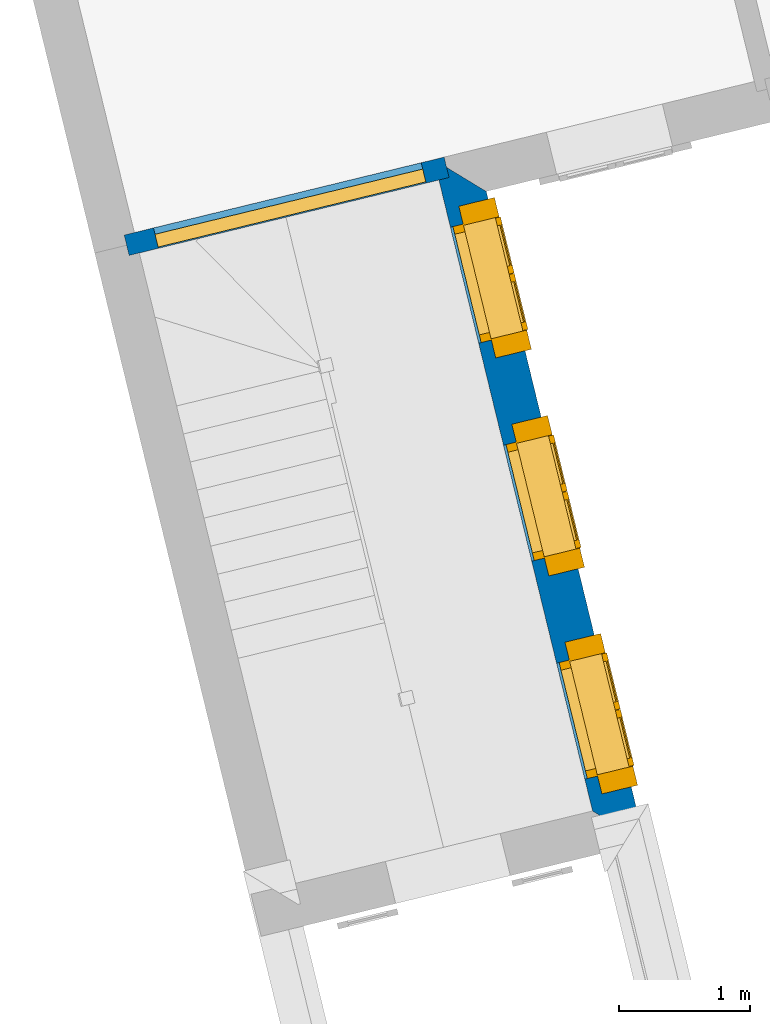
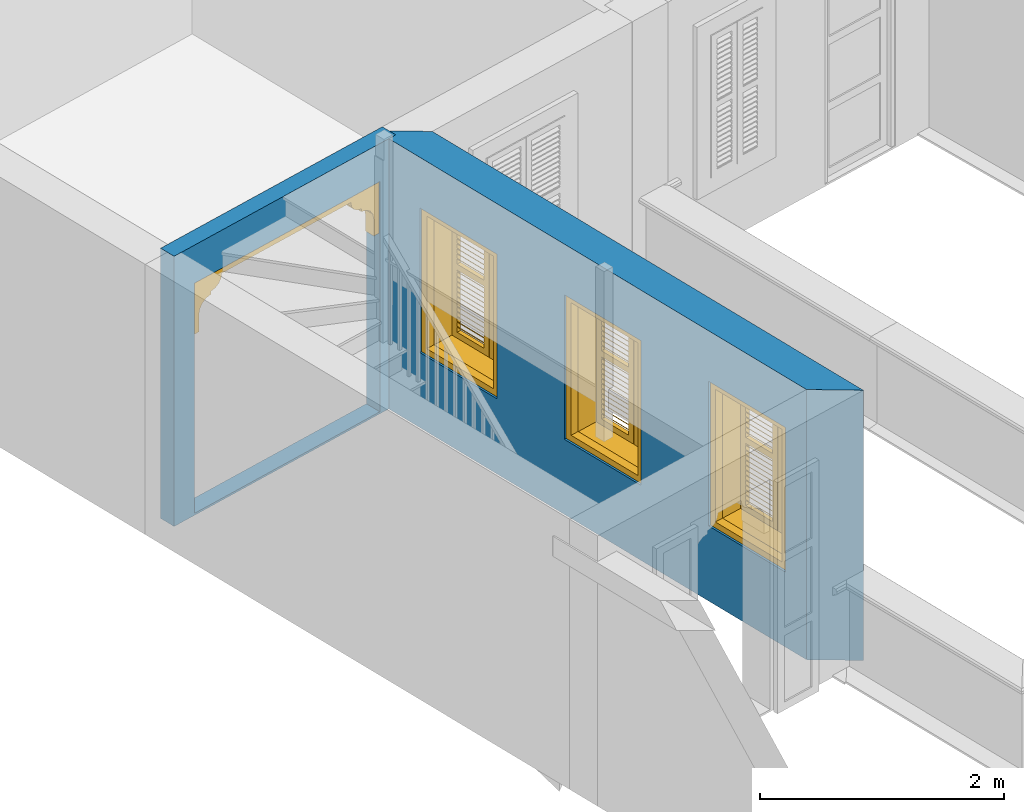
# One storey, part 3 of 9: 3 windows, 2 walls, 1 door, 4 openings.
"""IFC4 building model written with IfcOpenShell, lengths in metres."""

import ifcopenshell
import ifcopenshell.guid

model = None  # the IFC model being written
_history = None  # IfcOwnerHistory: only IFC2X3 demands one
_inside = {}  # id of a spatial element -> (the spatial element, [elements in it])
_under = {}  # id of a project, library or spatial element -> (it, [spatial elements below it])
_declared = {}  # id of a project -> (the project, [libraries it declares])
_typed = {}  # id of a type object -> (the type object, [elements of that type])
_made_of = {}  # id of a material, layer set ... -> (it, [elements and type objects made of it])


def new_model(schema):
    """Start an empty IFC model of exactly this schema.

    Asked for "IFC4X3", IfcOpenShell would pick the latest addendum, in which some entities
    have other attributes; the version numbers below select the first issue.
    IFC2X3 requires an IfcOwnerHistory on every rooted entity: one is made here for all.
    """
    global model, _history
    if schema == "IFC4X3":
        model = ifcopenshell.file(schema_version=(4, 3, 0, 0))
    else:
        model = ifcopenshell.file(schema=schema)
    _inside.clear()
    _under.clear()
    _declared.clear()
    _typed.clear()
    _made_of.clear()
    _history = None
    if model.schema == "IFC2X3":
        org = make("IfcOrganization", Name="unknown")
        user = make(
            "IfcPersonAndOrganization",
            ThePerson=make("IfcPerson", FamilyName="unknown"),
            TheOrganization=org,
        )
        app = make(
            "IfcApplication",
            ApplicationDeveloper=org,
            Version="unknown",
            ApplicationFullName="unknown",
            ApplicationIdentifier="unknown",
        )
        _history = make(
            "IfcOwnerHistory",
            OwningUser=user,
            OwningApplication=app,
            ChangeAction="ADDED",
            CreationDate=0,
        )
    return model


def make(cls, **values):
    """One entity of the class cls with the attributes given. An attribute that is None is left unset."""
    return model.create_entity(
        cls, **{name: value for name, value in values.items() if value is not None}
    )


def rooted(cls, **values):
    """An entity with a GlobalId (a new one), such as an element, a storey or a relation."""
    return make(cls, GlobalId=ifcopenshell.guid.new(), OwnerHistory=_history, **values)


def si_unit(unit_type, name, prefix=None):
    """IfcSIUnit, for example si_unit("LENGTHUNIT", "METRE", prefix="MILLI")."""
    return make("IfcSIUnit", UnitType=unit_type, Prefix=prefix, Name=name)


def assignment(units):
    """IfcUnitAssignment: the units of a project."""
    return None if units is None else make("IfcUnitAssignment", Units=units)


def point(xyz):
    """IfcCartesianPoint."""
    return None if xyz is None else make("IfcCartesianPoint", Coordinates=xyz)


def direction(xyz):
    """IfcDirection."""
    return None if xyz is None else make("IfcDirection", DirectionRatios=xyz)


def frame(location, z_axis=None, x_axis=None):
    """IfcAxis2Placement3D, a coordinate frame: its origin and axes. An axis left out is left unset."""
    return make(
        "IfcAxis2Placement3D",
        Location=point(location),
        Axis=direction(z_axis),
        RefDirection=direction(x_axis),
    )


def origin():
    """The frame at (0, 0, 0) with its axes left unset."""
    return frame((0.0, 0.0, 0.0))


def origin_with_axes():
    """The frame at (0, 0, 0) with the z axis (0, 0, 1) and the x axis (1, 0, 0) written out."""
    return frame((0.0, 0.0, 0.0), z_axis=(0.0, 0.0, 1.0), x_axis=(1.0, 0.0, 0.0))


def place(relative_to, where):
    """IfcLocalPlacement: puts the frame where relative to a parent placement (None: the world)."""
    return make(
        "IfcLocalPlacement", PlacementRelTo=relative_to, RelativePlacement=where
    )


def context(
    kind, dimensions, precision=None, world=None, true_north=None, identifier=None
):
    """IfcGeometricRepresentationContext, for example the 3D "Model" context."""
    return make(
        "IfcGeometricRepresentationContext",
        ContextIdentifier=identifier,
        ContextType=kind,
        CoordinateSpaceDimension=dimensions,
        Precision=precision,
        WorldCoordinateSystem=world,
        TrueNorth=true_north,
    )


def subcontext(parent, identifier, kind, view, scale=None):
    """IfcGeometricRepresentationSubContext, for example "Body" below "Model"."""
    return make(
        "IfcGeometricRepresentationSubContext",
        ContextIdentifier=identifier,
        ContextType=kind,
        ParentContext=parent,
        TargetScale=scale,
        TargetView=view,
    )


def project(units=None, contexts=None):
    """IfcProject with its units and contexts."""
    return rooted(
        "IfcProject",
        Name="project",
        RepresentationContexts=contexts,
        UnitsInContext=assignment(units),
    )


def spatial(cls, under=None, at=None, **own):
    """A site, building, storey or space (cls), placed at a placement, below another one or the project."""
    s = rooted(cls, ObjectPlacement=at, **own)
    if under is not None:
        _under.setdefault(under.id(), (under, []))[1].append(s)
    return s


def polyline(points):
    """IfcPolyline through the points."""
    return make("IfcPolyline", Points=[point(p) for p in points])


def outline(outer, holes=None, kind="AREA"):
    """IfcArbitraryClosedProfileDef: a profile drawn as a closed curve; with holes, ...WithVoids."""
    if holes is None:
        return make("IfcArbitraryClosedProfileDef", ProfileType=kind, OuterCurve=outer)
    return make(
        "IfcArbitraryProfileDefWithVoids",
        ProfileType=kind,
        OuterCurve=outer,
        InnerCurves=holes,
    )


def extrude(swept, where, along, depth):
    """IfcExtrudedAreaSolid: the profile swept, set in the frame where, extruded along a direction by depth."""
    return make(
        "IfcExtrudedAreaSolid",
        SweptArea=swept,
        Position=where,
        ExtrudedDirection=direction(along),
        Depth=depth,
    )


def faces_of(points, faces, orient=None, outer=None):
    """IfcFace entities. A face is a list of loops; a loop is a list of indices into points, from 0.

    orient and outer hold one flag for each loop. By default every Orientation is true, the
    first loop of a face is its IfcFaceOuterBound and the others are IfcFaceBound.
    """
    made = []
    for i, loops in enumerate(faces):
        bounds = []
        for j, loop in enumerate(loops):
            is_outer = j == 0 if outer is None else outer[i][j]
            bounds.append(
                make(
                    "IfcFaceOuterBound" if is_outer else "IfcFaceBound",
                    Bound=make("IfcPolyLoop", Polygon=[points[k] for k in loop]),
                    Orientation=True if orient is None else orient[i][j],
                )
            )
        made.append(make("IfcFace", Bounds=bounds))
    return made


def faceted_brep(points, faces, orient=None, outer=None, voids=None):
    """IfcFacetedBrep: a solid bounded by flat faces; with voids (closed shells), ...WithVoids."""
    shared = [point(p) for p in points]
    hull = make("IfcClosedShell", CfsFaces=faces_of(shared, faces, orient, outer))
    if voids is None:
        return make("IfcFacetedBrep", Outer=hull)
    return make(
        "IfcFacetedBrepWithVoids",
        Outer=hull,
        Voids=[
            make(cls, CfsFaces=faces_of(shared, fs, o, b)) for cls, fs, o, b in voids
        ],
    )


def shape(context_of_items, identifier, shape_type, items):
    """IfcShapeRepresentation: the items that make up one representation, for example the "Body"."""
    return make(
        "IfcShapeRepresentation",
        ContextOfItems=context_of_items,
        RepresentationIdentifier=identifier,
        RepresentationType=shape_type,
        Items=items,
    )


def source(mapping_origin, context_of_items, identifier, shape_type, items):
    """IfcRepresentationMap: a shape defined once, which mapped items show again and again."""
    return make(
        "IfcRepresentationMap",
        MappingOrigin=mapping_origin,
        MappedRepresentation=shape(context_of_items, identifier, shape_type, items),
    )


def transform(
    local_origin,
    x_axis=None,
    y_axis=None,
    z_axis=None,
    scale=None,
    scale2=None,
    scale3=None,
    uniform=True,
):
    """IfcCartesianTransformationOperator3D, or its non-uniform kind. x_axis, y_axis, z_axis: its Axis1, 2, 3."""
    if uniform:
        return make(
            "IfcCartesianTransformationOperator3D",
            Axis1=direction(x_axis),
            Axis2=direction(y_axis),
            LocalOrigin=point(local_origin),
            Scale=scale,
            Axis3=direction(z_axis),
        )
    return make(
        "IfcCartesianTransformationOperator3DnonUniform",
        Axis1=direction(x_axis),
        Axis2=direction(y_axis),
        LocalOrigin=point(local_origin),
        Scale=scale,
        Axis3=direction(z_axis),
        Scale2=scale2,
        Scale3=scale3,
    )


def mapped(mapping_source, mapping_target):
    """IfcMappedItem: shows the shape of a source again, moved by a transform."""
    return make(
        "IfcMappedItem", MappingSource=mapping_source, MappingTarget=mapping_target
    )


def material(Name=None, Category=None):
    """IfcMaterial."""
    return make("IfcMaterial", Name=Name, Category=Category)


def layer(
    of_material, thickness, ventilated=None, Name=None, Category=None, Priority=None
):
    """IfcMaterialLayer: one layer of a wall or slab, of a material (None: an air gap)."""
    return make(
        "IfcMaterialLayer",
        Material=of_material,
        LayerThickness=thickness,
        IsVentilated=ventilated,
        Name=Name,
        Category=Category,
        Priority=Priority,
    )


def layer_set(layers, Name=None):
    """IfcMaterialLayerSet."""
    return make("IfcMaterialLayerSet", MaterialLayers=layers, LayerSetName=Name)


def layer_usage(for_layer_set, set_direction, sense, offset, extent=None):
    """IfcMaterialLayerSetUsage: how a layer set lies in its element."""
    return make(
        "IfcMaterialLayerSetUsage",
        ForLayerSet=for_layer_set,
        LayerSetDirection=set_direction,
        DirectionSense=sense,
        OffsetFromReferenceLine=offset,
        ReferenceExtent=extent,
    )


def made_of(thing, what):
    """Note that an element or type object is made of a material, layer set ...; save() writes the relation."""
    if what is not None:
        _made_of.setdefault(what.id(), (what, []))[1].append(thing)
    return thing


def type_object(cls, material=None, **own):
    """A type object (cls), such as IfcWallType, which elements share."""
    return made_of(rooted(cls, **own), material)


def type_shapes(of_type, sources):
    """Give a type object the sources (RepresentationMaps) that its elements show as mapped items."""
    of_type.RepresentationMaps = sources


def element(
    cls,
    number,
    at=None,
    inside=None,
    cuts=None,
    type_object=None,
    material=None,
    context=None,
    identifier="Body",
    shape_type=None,
    held_by="IfcProductDefinitionShape",
    body=None,
    shapes=None,
    **own,
):
    """One element of the class cls, such as IfcWall. Its Tag is "e" and its number.

    at: its placement. inside: the storey or other place that contains it. cuts: it is an
    opening in that element (IfcRelVoidsElement). A single representation is given by context,
    identifier, shape_type and body (its items); several are given by shapes. held_by: the class
    of the entity that holds the representations. save() writes the other relations.
    """
    e = rooted(cls, Tag="e%d" % number, ObjectPlacement=at, **own)
    if body is not None:
        shapes = [shape(context, identifier, shape_type, body)]
    if shapes is not None:
        e.Representation = make(held_by, Representations=shapes)
    if inside is not None:
        _inside.setdefault(inside.id(), (inside, []))[1].append(e)
    if cuts is not None:
        rooted(
            "IfcRelVoidsElement", RelatingBuildingElement=cuts, RelatedOpeningElement=e
        )
    if type_object is not None:
        _typed.setdefault(type_object.id(), (type_object, []))[1].append(e)
    return made_of(e, material)


def fill(opening, filler):
    """IfcRelFillsElement: the door or window that sits in an opening."""
    return rooted(
        "IfcRelFillsElement",
        RelatingOpeningElement=opening,
        RelatedBuildingElement=filler,
    )


def aggregate(whole, parts):
    """IfcRelAggregates: a whole, such as a stair, and the parts it consists of."""
    return rooted("IfcRelAggregates", RelatingObject=whole, RelatedObjects=parts)


def save(model, path):
    """Write the relations noted so far, then the file.

    IfcRelAggregates (storeys below a building ...), IfcRelContainedInSpatialStructure (elements
    in a storey), IfcRelDefinesByType, IfcRelAssociatesMaterial and IfcRelDeclares: one each for
    every whole, place, type object, material and project.
    """
    for whole, parts in _under.values():
        aggregate(whole, parts)
    for where, things in _inside.values():
        rooted(
            "IfcRelContainedInSpatialStructure",
            RelatedElements=things,
            RelatingStructure=where,
        )
    for kind, things in _typed.values():
        rooted("IfcRelDefinesByType", RelatedObjects=things, RelatingType=kind)
    for what, things in _made_of.values():
        rooted("IfcRelAssociatesMaterial", RelatedObjects=things, RelatingMaterial=what)
    for by, libraries in _declared.values():
        rooted("IfcRelDeclares", RelatingContext=by, RelatedDefinitions=libraries)
    model.write(path)


model = new_model("IFC4")

# Units and contexts
model_context = context("Model", 3, world=origin_with_axes())
body_context = subcontext(model_context, "Body", "Model", "MODEL_VIEW")
ifc_project = project(units=[si_unit("PLANEANGLEUNIT", "RADIAN"), si_unit("MASSUNIT", "GRAM", prefix="KILO"), si_unit("FORCEUNIT", "NEWTON", prefix="KILO"), si_unit("LENGTHUNIT", "METRE"), si_unit("AREAUNIT", "SQUARE_METRE"), si_unit("VOLUMEUNIT", "CUBIC_METRE")], contexts=[model_context, model_context])

# Site, building, storey
site_placement = place(None, origin_with_axes())
site = spatial("IfcSite", under=ifc_project, at=site_placement, Name="Site plot-4", CompositionType="ELEMENT")
building_placement = place(None, origin_with_axes())
building = spatial("IfcBuilding", under=site, at=building_placement, Name="Building plot-4", CompositionType="ELEMENT")
storey_placement = place(None, frame((0.0, 0.0, 2.7), z_axis=(0.0, 0.0, 1.0), x_axis=(1.0, 0.0, 0.0)))
storey = spatial("IfcBuildingStorey", under=building, at=storey_placement, Name="plot-4 1", CompositionType="ELEMENT", Elevation=2.7)

# Wall, openings, windows
ifc_material_1 = material(Name="Masonry")
ifc_layer_1 = layer(ifc_material_1, 0.33, ventilated=False)
ifc_layer_set_1 = layer_set([ifc_layer_1], Name="exterior_0.08_0.25")
ifc_layer_usage_1 = layer_usage(ifc_layer_set_1, "AXIS2", "POSITIVE", -0.25)
wall_type_1 = type_object("IfcWallType", Name="exterior_0.08_0.25", PredefinedType="SOLIDWALL", material=ifc_layer_set_1)
wall_1_placement = place(storey_placement, frame((22.1734712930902, 10.0604083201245, 0.0), z_axis=(0.0, 0.0, 1.0), x_axis=(-0.236608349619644, 0.971605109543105, 0.0)))
wall_1 = element("IfcWall", 1, at=wall_1_placement, inside=storey, type_object=wall_type_1, material=ifc_layer_usage_1, Name="exterior", context=body_context, shape_type="SweptSolid", body=[
    extrude(outline(polyline([(0.0800000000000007, 0.0799999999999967), (-0.250000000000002, -0.25), (4.85976284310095, -0.249999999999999), (5.18976284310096, 0.0799999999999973), (0.0800000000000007, 0.0799999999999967)])), origin_with_axes(), (0.0, 0.0, 1.0), 2.7),
])
opening_1_placement = place(wall_1_placement, frame((0.329762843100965, 0.0, 0.75)))
opening_1 = element("IfcOpeningElement", 2, at=opening_1_placement, cuts=wall_1, Name="My Opening", ObjectType="Opening", context=body_context, shape_type="SweptSolid", body=[
    extrude(outline(polyline([(0.0, -0.269999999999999), (0.910000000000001, -0.269999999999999), (0.910000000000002, 1.1), (1.55431223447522e-15, 1.1), (0.0, -0.269999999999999)])), origin_with_axes(), (0.0, 0.0, 1.0), 1.445),
])
opening_2_placement = place(wall_1_placement, frame((2.03976284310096, 0.0, 0.75)))
opening_2 = element("IfcOpeningElement", 3, at=opening_2_placement, cuts=wall_1, Name="My Opening", ObjectType="Opening", context=body_context, shape_type="SweptSolid", body=[
    extrude(outline(polyline([(0.0, -0.270000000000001), (0.910000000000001, -0.270000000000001), (0.910000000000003, 1.1), (1.33226762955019e-15, 1.1), (0.0, -0.270000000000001)])), origin_with_axes(), (0.0, 0.0, 1.0), 1.445),
])
opening_3_placement = place(wall_1_placement, frame((3.74976284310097, 0.0, 0.75)))
opening_3 = element("IfcOpeningElement", 4, at=opening_3_placement, cuts=wall_1, Name="My Opening", ObjectType="Opening", context=body_context, shape_type="SweptSolid", body=[
    extrude(outline(polyline([(0.0, -0.270000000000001), (0.909999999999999, -0.269999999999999), (0.910000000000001, 1.1), (1.77635683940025e-15, 1.1), (0.0, -0.270000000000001)])), origin_with_axes(), (0.0, 0.0, 1.0), 1.445),
])
window_type = type_object("IfcWindowType", Name="shuttered_shorter", PartitioningType="DOUBLE_PANEL_HORIZONTAL", PredefinedType="NOTDEFINED")
shared_shape_1 = source(origin(), body_context, "Body", "Brep", [
    faceted_brep([(0.393, 0.0, 0.622), (0.074, 0.0, 0.622), (0.074, 0.0, 0.632), (0.393, 0.0, 0.632), (0.074, -0.04, 0.592), (0.393, -0.04, 0.592), (0.393, -0.04, 0.582), (0.074, -0.04, 0.582), (0.517, 0.0, 0.682), (0.836, 0.0, 0.682), (0.836, 0.0, 0.672), (0.517, 0.0, 0.672), (0.517, -0.04, 0.642), (0.836, -0.04, 0.642), (0.836, -0.04, 0.632), (0.517, -0.04, 0.632), (0.517, 0.0, 0.632), (0.836, 0.0, 0.632), (0.836, 0.0, 0.622), (0.517, 0.0, 0.622), (0.517, -0.04, 0.592), (0.836, -0.04, 0.592), (0.836, -0.04, 0.582), (0.517, -0.04, 0.582), (0.517, 0.0, 0.232), (0.836, 0.0, 0.232), (0.836, 0.0, 0.222), (0.517, 0.0, 0.222), (0.517, -0.04, 0.192), (0.836, -0.04, 0.192), (0.836, -0.04, 0.182), (0.517, -0.04, 0.182), (0.517, 0.0, 0.532), (0.836, 0.0, 0.532), (0.836, 0.0, 0.522), (0.517, 0.0, 0.522), (0.517, -0.04, 0.492), (0.836, -0.04, 0.492), (0.836, -0.04, 0.482), (0.517, -0.04, 0.482), (0.517, 0.0, 0.482), (0.836, 0.0, 0.482), (0.836, 0.0, 0.472), (0.517, 0.0, 0.472), (0.517, -0.04, 0.442), (0.836, -0.04, 0.442), (0.836, -0.04, 0.432), (0.517, -0.04, 0.432), (0.517, 0.0, 0.582), (0.836, 0.0, 0.582), (0.836, 0.0, 0.572), (0.517, 0.0, 0.572), (0.517, -0.04, 0.542), (0.836, -0.04, 0.542), (0.836, -0.04, 0.532), (0.517, -0.04, 0.532), (0.517, 0.0, 0.182), (0.836, 0.0, 0.182), (0.836, 0.0, 0.172), (0.517, 0.0, 0.172), (0.517, -0.04, 0.142), (0.836, -0.04, 0.142), (0.836, -0.04, 0.132), (0.517, -0.04, 0.132), (0.517, 0.0, 0.382), (0.836, 0.0, 0.382), (0.836, 0.0, 0.372), (0.517, 0.0, 0.372), (0.517, -0.04, 0.342), (0.836, -0.04, 0.342), (0.836, -0.04, 0.332), (0.517, -0.04, 0.332), (0.517, 0.0, 0.432), (0.836, 0.0, 0.432), (0.836, 0.0, 0.422), (0.517, 0.0, 0.422), (0.517, -0.04, 0.392), (0.836, -0.04, 0.392), (0.836, -0.04, 0.382), (0.517, -0.04, 0.382), (0.517, 0.0, 0.132), (0.836, 0.0, 0.132), (0.836, 0.0, 0.122), (0.517, 0.0, 0.122), (0.517, -0.04, 0.092), (0.836, -0.04, 0.092), (0.836, -0.04, 0.082), (0.517, -0.04, 0.082), (0.517, 0.0, 0.282), (0.836, 0.0, 0.282), (0.836, 0.0, 0.272), (0.517, 0.0, 0.272), (0.517, -0.04, 0.242), (0.836, -0.04, 0.242), (0.836, -0.04, 0.232), (0.517, -0.04, 0.232), (0.517, 0.0, 0.332), (0.836, 0.0, 0.332), (0.836, 0.0, 0.322), (0.517, 0.0, 0.322), (0.517, -0.04, 0.292), (0.836, -0.04, 0.292), (0.836, -0.04, 0.282), (0.517, -0.04, 0.282), (0.517, 0.0, 1.362667), (0.836, 0.0, 1.362667), (0.836, 0.0, 1.352667), (0.517, 0.0, 1.352667), (0.517, -0.04, 1.322667), (0.836, -0.04, 1.322667), (0.836, -0.04, 1.312667), (0.517, -0.04, 1.312667), (0.517, 0.0, 1.312667), (0.836, 0.0, 1.312667), (0.836, 0.0, 1.302667), (0.517, 0.0, 1.302667), (0.517, -0.04, 1.272667), (0.836, -0.04, 1.272667), (0.836, -0.04, 1.262667), (0.517, -0.04, 1.262667), (0.517, 0.0, 0.912667), (0.836, 0.0, 0.912667), (0.836, 0.0, 0.902667), (0.517, 0.0, 0.902667), (0.517, -0.04, 0.872667), (0.836, -0.04, 0.872667), (0.836, -0.04, 0.862667), (0.517, -0.04, 0.862667), (0.517, 0.0, 1.212667), (0.836, 0.0, 1.212667), (0.836, 0.0, 1.202667), (0.517, 0.0, 1.202667), (0.517, -0.04, 1.172667), (0.836, -0.04, 1.172667), (0.836, -0.04, 1.162667), (0.517, -0.04, 1.162667), (0.517, 0.0, 1.162667), (0.836, 0.0, 1.162667), (0.836, 0.0, 1.152667), (0.517, 0.0, 1.152667), (0.517, -0.04, 1.122667), (0.836, -0.04, 1.122667), (0.836, -0.04, 1.112667), (0.517, -0.04, 1.112667), (0.517, 0.0, 1.262667), (0.836, 0.0, 1.262667), (0.836, 0.0, 1.252667), (0.517, 0.0, 1.252667), (0.517, -0.04, 1.222667), (0.836, -0.04, 1.222667), (0.836, -0.04, 1.212667), (0.517, -0.04, 1.212667), (0.517, 0.0, 0.862667), (0.836, 0.0, 0.862667), (0.836, 0.0, 0.852667), (0.517, 0.0, 0.852667), (0.517, -0.04, 0.822667), (0.836, -0.04, 0.822667), (0.836, -0.04, 0.812667), (0.517, -0.04, 0.812667), (0.517, 0.0, 1.062667), (0.836, 0.0, 1.062667), (0.836, 0.0, 1.052667), (0.517, 0.0, 1.052667), (0.517, -0.04, 1.022667), (0.836, -0.04, 1.022667), (0.836, -0.04, 1.012667), (0.517, -0.04, 1.012667), (0.517, 0.0, 1.112667), (0.836, 0.0, 1.112667), (0.836, 0.0, 1.102667), (0.517, 0.0, 1.102667), (0.517, -0.04, 1.072667), (0.836, -0.04, 1.072667), (0.836, -0.04, 1.062667), (0.517, -0.04, 1.062667), (0.517, 0.0, 0.812667), (0.836, 0.0, 0.812667), (0.836, 0.0, 0.802667), (0.517, 0.0, 0.802667), (0.517, -0.04, 0.772667), (0.836, -0.04, 0.772667), (0.836, -0.04, 0.762667), (0.517, -0.04, 0.762667), (0.517, 0.0, 0.962667), (0.836, 0.0, 0.962667), (0.836, 0.0, 0.952667), (0.517, 0.0, 0.952667), (0.517, -0.04, 0.922667), (0.836, -0.04, 0.922667), (0.836, -0.04, 0.912667), (0.517, -0.04, 0.912667), (0.517, 0.0, 1.012667), (0.836, 0.0, 1.012667), (0.836, 0.0, 1.002667), (0.517, 0.0, 1.002667), (0.517, -0.04, 0.972667), (0.836, -0.04, 0.972667), (0.836, -0.04, 0.962667), (0.517, -0.04, 0.962667), (0.074, 0.0, 0.682), (0.393, 0.0, 0.682), (0.393, 0.0, 0.672), (0.074, 0.0, 0.672), (0.074, -0.04, 0.642), (0.393, -0.04, 0.642), (0.393, -0.04, 0.632), (0.074, -0.04, 0.632), (0.074, 0.0, 0.232), (0.393, 0.0, 0.232), (0.393, 0.0, 0.222), (0.074, 0.0, 0.222), (0.074, -0.04, 0.192), (0.393, -0.04, 0.192), (0.393, -0.04, 0.182), (0.074, -0.04, 0.182), (0.074, 0.0, 0.532), (0.393, 0.0, 0.532), (0.393, 0.0, 0.522), (0.074, 0.0, 0.522), (0.074, -0.04, 0.492), (0.393, -0.04, 0.492), (0.393, -0.04, 0.482), (0.074, -0.04, 0.482), (0.074, 0.0, 0.482), (0.393, 0.0, 0.482), (0.393, 0.0, 0.472), (0.074, 0.0, 0.472), (0.074, -0.04, 0.442), (0.393, -0.04, 0.442), (0.393, -0.04, 0.432), (0.074, -0.04, 0.432), (0.074, 0.0, 0.582), (0.393, 0.0, 0.582), (0.393, 0.0, 0.572), (0.074, 0.0, 0.572), (0.074, -0.04, 0.542), (0.393, -0.04, 0.542), (0.393, -0.04, 0.532), (0.074, -0.04, 0.532), (0.074, 0.0, 0.182), (0.393, 0.0, 0.182), (0.393, 0.0, 0.172), (0.074, 0.0, 0.172), (0.074, -0.04, 0.142), (0.393, -0.04, 0.142), (0.393, -0.04, 0.132), (0.074, -0.04, 0.132), (0.074, 0.0, 0.382), (0.393, 0.0, 0.382), (0.393, 0.0, 0.372), (0.074, 0.0, 0.372), (0.074, -0.04, 0.342), (0.393, -0.04, 0.342), (0.393, -0.04, 0.332), (0.074, -0.04, 0.332), (0.074, 0.0, 0.432), (0.393, 0.0, 0.432), (0.393, 0.0, 0.422), (0.074, 0.0, 0.422), (0.074, -0.04, 0.392), (0.393, -0.04, 0.392), (0.393, -0.04, 0.382), (0.074, -0.04, 0.382), (0.074, 0.0, 0.132), (0.393, 0.0, 0.132), (0.393, 0.0, 0.122), (0.074, 0.0, 0.122), (0.074, -0.04, 0.092), (0.393, -0.04, 0.092), (0.393, -0.04, 0.082), (0.074, -0.04, 0.082), (0.074, 0.0, 0.282), (0.393, 0.0, 0.282), (0.393, 0.0, 0.272), (0.074, 0.0, 0.272), (0.074, -0.04, 0.242), (0.393, -0.04, 0.242), (0.393, -0.04, 0.232), (0.074, -0.04, 0.232), (0.074, 0.0, 0.332), (0.393, 0.0, 0.332), (0.393, 0.0, 0.322), (0.074, 0.0, 0.322), (0.074, -0.04, 0.292), (0.393, -0.04, 0.292), (0.393, -0.04, 0.282), (0.074, -0.04, 0.282), (0.074, 0.0, 1.362667), (0.393, 0.0, 1.362667), (0.393, 0.0, 1.352667), (0.074, 0.0, 1.352667), (0.074, -0.04, 1.322667), (0.393, -0.04, 1.322667), (0.393, -0.04, 1.312667), (0.074, -0.04, 1.312667), (0.074, 0.0, 1.312667), (0.393, 0.0, 1.312667), (0.393, 0.0, 1.302667), (0.074, 0.0, 1.302667), (0.074, -0.04, 1.272667), (0.393, -0.04, 1.272667), (0.393, -0.04, 1.262667), (0.074, -0.04, 1.262667), (0.074, 0.0, 0.912667), (0.393, 0.0, 0.912667), (0.393, 0.0, 0.902667), (0.074, 0.0, 0.902667), (0.074, -0.04, 0.872667), (0.393, -0.04, 0.872667), (0.393, -0.04, 0.862667), (0.074, -0.04, 0.862667), (0.074, 0.0, 1.212667), (0.393, 0.0, 1.212667), (0.393, 0.0, 1.202667), (0.074, 0.0, 1.202667), (0.074, -0.04, 1.172667), (0.393, -0.04, 1.172667), (0.393, -0.04, 1.162667), (0.074, -0.04, 1.162667), (0.074, 0.0, 1.162667), (0.393, 0.0, 1.162667), (0.393, 0.0, 1.152667), (0.074, 0.0, 1.152667), (0.074, -0.04, 1.122667), (0.393, -0.04, 1.122667), (0.393, -0.04, 1.112667), (0.074, -0.04, 1.112667), (0.074, 0.0, 1.262667), (0.393, 0.0, 1.262667), (0.393, 0.0, 1.252667), (0.074, 0.0, 1.252667), (0.074, -0.04, 1.222667), (0.393, -0.04, 1.222667), (0.393, -0.04, 1.212667), (0.074, -0.04, 1.212667), (0.074, 0.0, 0.862667), (0.393, 0.0, 0.862667), (0.393, 0.0, 0.852667), (0.074, 0.0, 0.852667), (0.074, -0.04, 0.822667), (0.393, -0.04, 0.822667), (0.393, -0.04, 0.812667), (0.074, -0.04, 0.812667), (0.074, 0.0, 1.062667), (0.393, 0.0, 1.062667), (0.393, 0.0, 1.052667), (0.074, 0.0, 1.052667), (0.074, -0.04, 1.022667), (0.393, -0.04, 1.022667), (0.393, -0.04, 1.012667), (0.074, -0.04, 1.012667), (0.074, 0.0, 1.112667), (0.393, 0.0, 1.112667), (0.393, 0.0, 1.102667), (0.074, 0.0, 1.102667), (0.074, -0.04, 1.072667), (0.393, -0.04, 1.072667), (0.393, -0.04, 1.062667), (0.074, -0.04, 1.062667), (0.074, 0.0, 0.812667), (0.393, 0.0, 0.812667), (0.393, 0.0, 0.802667), (0.074, 0.0, 0.802667), (0.074, -0.04, 0.772667), (0.393, -0.04, 0.772667), (0.393, -0.04, 0.762667), (0.074, -0.04, 0.762667), (0.074, 0.0, 0.962667), (0.393, 0.0, 0.962667), (0.393, 0.0, 0.952667), (0.074, 0.0, 0.952667), (0.074, -0.04, 0.922667), (0.393, -0.04, 0.922667), (0.393, -0.04, 0.912667), (0.074, -0.04, 0.912667), (0.074, 0.0, 1.012667), (0.393, 0.0, 1.012667), (0.393, 0.0, 1.002667), (0.074, 0.0, 1.002667), (0.074, -0.04, 0.972667), (0.393, -0.04, 0.972667), (0.393, -0.04, 0.962667), (0.074, -0.04, 0.962667), (0.517, -0.04, 0.072), (0.457, -0.04, 0.012), (0.896, -0.04, 0.012), (0.836, -0.04, 0.072), (0.457, -0.04, 0.692667), (0.517, -0.04, 0.692667), (0.457, 0.0, 0.012), (0.896, 0.0, 0.012), (0.836, -0.04, 0.692667), (0.896, -0.04, 0.692667), (0.836, 0.0, 0.072), (0.517, 0.0, 0.072), (0.457, 0.0, 0.692667), (0.517, 0.0, 0.692667), (0.517, -0.04, 0.752666), (0.457, -0.04, 0.752666), (0.896, 0.0, 0.692667), (0.836, 0.0, 0.692667), (0.836, -0.04, 0.752666), (0.896, -0.04, 0.752666), (0.457, 0.0, 0.752666), (0.457, -0.04, 1.433333), (0.517, -0.04, 1.373333), (0.896, 0.0, 0.752666), (0.836, -0.04, 1.373333), (0.896, -0.04, 1.433333), (0.457, 0.0, 1.433333), (0.517, 0.0, 0.752666), (0.836, 0.0, 0.752666), (0.517, 0.0, 1.373333), (0.896, 0.0, 1.433333), (0.836, 0.0, 1.373333), (0.074, -0.04, 0.072), (0.014, -0.04, 0.012), (0.453, -0.04, 0.012), (0.393, -0.04, 0.072), (0.014, -0.04, 0.692667), (0.074, -0.04, 0.692667), (0.014, 0.0, 0.012), (0.453, 0.0, 0.012), (0.393, -0.04, 0.692667), (0.453, -0.04, 0.692667), (0.393, 0.0, 0.072), (0.074, 0.0, 0.072), (0.014, 0.0, 0.692667), (0.074, 0.0, 0.692667), (0.074, -0.04, 0.752666), (0.014, -0.04, 0.752666), (0.453, 0.0, 0.692667), (0.393, 0.0, 0.692667), (0.393, -0.04, 0.752666), (0.453, -0.04, 0.752666), (0.014, 0.0, 0.752666), (0.014, -0.04, 1.433333), (0.074, -0.04, 1.373333), (0.453, 0.0, 0.752666), (0.393, -0.04, 1.373333), (0.453, -0.04, 1.433333), (0.014, 0.0, 1.433333), (0.074, 0.0, 0.752666), (0.393, 0.0, 0.752666), (0.074, 0.0, 1.373333), (0.453, 0.0, 1.433333), (0.393, 0.0, 1.373333), (0.0, 0.33, 1.445), (0.91, 0.33, 1.445), (0.85, 0.33, 1.385), (0.06, 0.33, 1.385), (0.91, 0.25, 1.445), (0.0, 0.25, 1.445), (0.91, 0.25, 1.445), (0.85, 0.33, 0.06), (0.91, 0.33, 0.0), (0.85, 0.25, 1.385), (0.06, 0.25, 1.385), (0.0, 0.33, 0.0), (0.06, 0.33, 0.06), (0.0, 0.25, 0.0), (0.91, 0.25, 0.0), (0.85, 0.25, 0.06), (0.06, 0.25, 0.06), (1.05, 0.25, 1.585), (-0.14, 0.25, 1.585), (-0.14, -0.03, 1.585), (1.05, -0.03, 1.585), (0.9, -0.03, 1.435), (0.01, -0.03, 1.435), (0.01, 0.25, 1.435), (0.9, 0.25, 1.435), (0.9, 0.25, 0.01), (0.9, -0.03, 0.01), (1.05, -0.03, -0.14), (1.05, 0.25, -0.14), (0.01, -0.03, 0.01), (0.01, 0.25, 0.01), (-0.14, -0.03, -0.14), (-0.14, 0.25, -0.14)], [[[0, 1, 2, 3]], [[4, 5, 3, 2]], [[5, 6, 0, 3]], [[1, 0, 6, 7]], [[2, 1, 7, 4]], [[5, 4, 7, 6]], [[8, 9, 10, 11]], [[12, 13, 9, 8]], [[13, 14, 10, 9]], [[14, 15, 11, 10]], [[15, 12, 8, 11]], [[13, 12, 15, 14]], [[16, 17, 18, 19]], [[20, 21, 17, 16]], [[21, 22, 18, 17]], [[22, 23, 19, 18]], [[23, 20, 16, 19]], [[21, 20, 23, 22]], [[24, 25, 26, 27]], [[28, 29, 25, 24]], [[29, 30, 26, 25]], [[30, 31, 27, 26]], [[31, 28, 24, 27]], [[29, 28, 31, 30]], [[32, 33, 34, 35]], [[36, 37, 33, 32]], [[37, 38, 34, 33]], [[38, 39, 35, 34]], [[39, 36, 32, 35]], [[37, 36, 39, 38]], [[40, 41, 42, 43]], [[44, 45, 41, 40]], [[45, 46, 42, 41]], [[46, 47, 43, 42]], [[47, 44, 40, 43]], [[45, 44, 47, 46]], [[48, 49, 50, 51]], [[52, 53, 49, 48]], [[53, 54, 50, 49]], [[54, 55, 51, 50]], [[55, 52, 48, 51]], [[53, 52, 55, 54]], [[56, 57, 58, 59]], [[60, 61, 57, 56]], [[61, 62, 58, 57]], [[62, 63, 59, 58]], [[63, 60, 56, 59]], [[61, 60, 63, 62]], [[64, 65, 66, 67]], [[68, 69, 65, 64]], [[69, 70, 66, 65]], [[70, 71, 67, 66]], [[71, 68, 64, 67]], [[69, 68, 71, 70]], [[72, 73, 74, 75]], [[76, 77, 73, 72]], [[77, 78, 74, 73]], [[78, 79, 75, 74]], [[79, 76, 72, 75]], [[77, 76, 79, 78]], [[80, 81, 82, 83]], [[84, 85, 81, 80]], [[85, 86, 82, 81]], [[86, 87, 83, 82]], [[87, 84, 80, 83]], [[85, 84, 87, 86]], [[88, 89, 90, 91]], [[92, 93, 89, 88]], [[93, 94, 90, 89]], [[94, 95, 91, 90]], [[95, 92, 88, 91]], [[93, 92, 95, 94]], [[96, 97, 98, 99]], [[100, 101, 97, 96]], [[101, 102, 98, 97]], [[102, 103, 99, 98]], [[103, 100, 96, 99]], [[101, 100, 103, 102]], [[104, 105, 106, 107]], [[108, 109, 105, 104]], [[109, 110, 106, 105]], [[110, 111, 107, 106]], [[111, 108, 104, 107]], [[109, 108, 111, 110]], [[112, 113, 114, 115]], [[116, 117, 113, 112]], [[117, 118, 114, 113]], [[118, 119, 115, 114]], [[119, 116, 112, 115]], [[117, 116, 119, 118]], [[120, 121, 122, 123]], [[124, 125, 121, 120]], [[125, 126, 122, 121]], [[126, 127, 123, 122]], [[127, 124, 120, 123]], [[125, 124, 127, 126]], [[128, 129, 130, 131]], [[132, 133, 129, 128]], [[133, 134, 130, 129]], [[134, 135, 131, 130]], [[135, 132, 128, 131]], [[133, 132, 135, 134]], [[136, 137, 138, 139]], [[140, 141, 137, 136]], [[141, 142, 138, 137]], [[142, 143, 139, 138]], [[139, 143, 140, 136]], [[141, 140, 143, 142]], [[144, 145, 146, 147]], [[148, 149, 145, 144]], [[149, 150, 146, 145]], [[150, 151, 147, 146]], [[151, 148, 144, 147]], [[149, 148, 151, 150]], [[152, 153, 154, 155]], [[156, 157, 153, 152]], [[157, 158, 154, 153]], [[158, 159, 155, 154]], [[159, 156, 152, 155]], [[157, 156, 159, 158]], [[160, 161, 162, 163]], [[164, 165, 161, 160]], [[165, 166, 162, 161]], [[166, 167, 163, 162]], [[167, 164, 160, 163]], [[165, 164, 167, 166]], [[168, 169, 170, 171]], [[172, 173, 169, 168]], [[173, 174, 170, 169]], [[174, 175, 171, 170]], [[175, 172, 168, 171]], [[173, 172, 175, 174]], [[176, 177, 178, 179]], [[180, 181, 177, 176]], [[181, 182, 178, 177]], [[182, 183, 179, 178]], [[183, 180, 176, 179]], [[181, 180, 183, 182]], [[184, 185, 186, 187]], [[188, 189, 185, 184]], [[189, 190, 186, 185]], [[190, 191, 187, 186]], [[191, 188, 184, 187]], [[189, 188, 191, 190]], [[192, 193, 194, 195]], [[196, 197, 193, 192]], [[197, 198, 194, 193]], [[198, 199, 195, 194]], [[199, 196, 192, 195]], [[197, 196, 199, 198]], [[200, 201, 202, 203]], [[204, 205, 201, 200]], [[205, 206, 202, 201]], [[206, 207, 203, 202]], [[207, 204, 200, 203]], [[205, 204, 207, 206]], [[208, 209, 210, 211]], [[212, 213, 209, 208]], [[213, 214, 210, 209]], [[214, 215, 211, 210]], [[215, 212, 208, 211]], [[213, 212, 215, 214]], [[216, 217, 218, 219]], [[220, 221, 217, 216]], [[221, 222, 218, 217]], [[222, 223, 219, 218]], [[223, 220, 216, 219]], [[221, 220, 223, 222]], [[224, 225, 226, 227]], [[228, 229, 225, 224]], [[229, 230, 226, 225]], [[230, 231, 227, 226]], [[231, 228, 224, 227]], [[229, 228, 231, 230]], [[232, 233, 234, 235]], [[236, 237, 233, 232]], [[237, 238, 234, 233]], [[238, 239, 235, 234]], [[239, 236, 232, 235]], [[237, 236, 239, 238]], [[240, 241, 242, 243]], [[244, 245, 241, 240]], [[245, 246, 242, 241]], [[246, 247, 243, 242]], [[247, 244, 240, 243]], [[245, 244, 247, 246]], [[248, 249, 250, 251]], [[252, 253, 249, 248]], [[253, 254, 250, 249]], [[254, 255, 251, 250]], [[255, 252, 248, 251]], [[253, 252, 255, 254]], [[256, 257, 258, 259]], [[260, 261, 257, 256]], [[261, 262, 258, 257]], [[262, 263, 259, 258]], [[263, 260, 256, 259]], [[261, 260, 263, 262]], [[264, 265, 266, 267]], [[268, 269, 265, 264]], [[269, 270, 266, 265]], [[270, 271, 267, 266]], [[271, 268, 264, 267]], [[269, 268, 271, 270]], [[272, 273, 274, 275]], [[276, 277, 273, 272]], [[277, 278, 274, 273]], [[278, 279, 275, 274]], [[279, 276, 272, 275]], [[277, 276, 279, 278]], [[280, 281, 282, 283]], [[284, 285, 281, 280]], [[285, 286, 282, 281]], [[286, 287, 283, 282]], [[287, 284, 280, 283]], [[285, 284, 287, 286]], [[288, 289, 290, 291]], [[292, 293, 289, 288]], [[293, 294, 290, 289]], [[294, 295, 291, 290]], [[295, 292, 288, 291]], [[293, 292, 295, 294]], [[296, 297, 298, 299]], [[300, 301, 297, 296]], [[301, 302, 298, 297]], [[302, 303, 299, 298]], [[303, 300, 296, 299]], [[301, 300, 303, 302]], [[304, 305, 306, 307]], [[308, 309, 305, 304]], [[309, 310, 306, 305]], [[310, 311, 307, 306]], [[311, 308, 304, 307]], [[309, 308, 311, 310]], [[312, 313, 314, 315]], [[316, 317, 313, 312]], [[317, 318, 314, 313]], [[318, 319, 315, 314]], [[319, 316, 312, 315]], [[317, 316, 319, 318]], [[320, 321, 322, 323]], [[324, 325, 321, 320]], [[325, 326, 322, 321]], [[326, 327, 323, 322]], [[327, 324, 320, 323]], [[325, 324, 327, 326]], [[328, 329, 330, 331]], [[332, 333, 329, 328]], [[333, 334, 330, 329]], [[334, 335, 331, 330]], [[335, 332, 328, 331]], [[333, 332, 335, 334]], [[336, 337, 338, 339]], [[340, 341, 337, 336]], [[341, 342, 338, 337]], [[342, 343, 339, 338]], [[343, 340, 336, 339]], [[341, 340, 343, 342]], [[344, 345, 346, 347]], [[348, 349, 345, 344]], [[349, 350, 346, 345]], [[350, 351, 347, 346]], [[351, 348, 344, 347]], [[349, 348, 351, 350]], [[352, 353, 354, 355]], [[356, 357, 353, 352]], [[357, 358, 354, 353]], [[358, 359, 355, 354]], [[359, 356, 352, 355]], [[357, 356, 359, 358]], [[360, 361, 362, 363]], [[364, 365, 361, 360]], [[365, 366, 362, 361]], [[366, 367, 363, 362]], [[367, 364, 360, 363]], [[365, 364, 367, 366]], [[368, 369, 370, 371]], [[372, 373, 369, 368]], [[373, 374, 370, 369]], [[374, 375, 371, 370]], [[375, 372, 368, 371]], [[373, 372, 375, 374]], [[376, 377, 378, 379]], [[380, 381, 377, 376]], [[381, 382, 378, 377]], [[382, 383, 379, 378]], [[383, 380, 376, 379]], [[381, 380, 383, 382]], [[384, 385, 386, 387]], [[388, 385, 384, 389]], [[390, 391, 386, 385]], [[392, 387, 386, 393]], [[384, 387, 394, 395]], [[390, 385, 388, 396]], [[389, 384, 395, 397]], [[389, 398, 399, 388]], [[390, 395, 394, 391]], [[400, 393, 386, 391]], [[387, 392, 401, 394]], [[402, 392, 393, 403]], [[396, 388, 399, 404]], [[390, 396, 397, 395]], [[392, 389, 397, 401]], [[398, 389, 392, 402]], [[405, 399, 398, 406]], [[394, 401, 400, 391]], [[407, 403, 393, 400]], [[408, 402, 403, 409]], [[404, 399, 405, 410]], [[411, 397, 396, 404]], [[397, 411, 412, 401]], [[398, 402, 412, 411]], [[406, 398, 411, 413]], [[405, 406, 408, 409]], [[401, 412, 407, 400]], [[414, 409, 403, 407]], [[402, 408, 415, 412]], [[405, 409, 414, 410]], [[404, 410, 413, 411]], [[408, 406, 413, 415]], [[412, 415, 414, 407]], [[413, 410, 414, 415]], [[416, 417, 418, 419]], [[420, 417, 416, 421]], [[422, 423, 418, 417]], [[424, 419, 418, 425]], [[416, 419, 426, 427]], [[422, 417, 420, 428]], [[421, 416, 427, 429]], [[421, 430, 431, 420]], [[422, 427, 426, 423]], [[432, 425, 418, 423]], [[419, 424, 433, 426]], [[434, 424, 425, 435]], [[428, 420, 431, 436]], [[422, 428, 429, 427]], [[424, 421, 429, 433]], [[430, 421, 424, 434]], [[437, 431, 430, 438]], [[426, 433, 432, 423]], [[439, 435, 425, 432]], [[440, 434, 435, 441]], [[436, 431, 437, 442]], [[443, 429, 428, 436]], [[429, 443, 444, 433]], [[430, 434, 444, 443]], [[438, 430, 443, 445]], [[437, 438, 440, 441]], [[433, 444, 439, 432]], [[446, 441, 435, 439]], [[434, 440, 447, 444]], [[437, 441, 446, 442]], [[436, 442, 445, 443]], [[440, 438, 445, 447]], [[444, 447, 446, 439]], [[445, 442, 446, 447]], [[448, 449, 450, 451]], [[452, 449, 448]], [[448, 453, 454]], [[448, 454, 452]], [[455, 450, 449, 456]], [[451, 450, 457, 458]], [[459, 448, 451, 460]], [[448, 459, 461, 453]], [[454, 453, 458, 457]], [[462, 452, 454]], [[454, 457, 463]], [[454, 463, 462]], [[456, 449, 452, 462]], [[450, 455, 463, 457]], [[456, 459, 460, 455]], [[460, 451, 458, 464]], [[459, 456, 462, 461]], [[464, 458, 453, 461]], [[461, 462, 463, 464]], [[455, 460, 464, 463]], [[465, 466, 467, 468]], [[469, 470, 471, 472]], [[473, 474, 469, 472]], [[465, 468, 475, 476]], [[470, 477, 478, 471]], [[474, 473, 478, 477]], [[474, 477, 479, 475]], [[470, 467, 479, 477]], [[470, 469, 468, 467]], [[474, 475, 468, 469]], [[471, 478, 480, 466]], [[473, 472, 465, 476]], [[473, 476, 480, 478]], [[466, 465, 472, 471]], [[480, 476, 475, 479]], [[480, 479, 467, 466]]]),
])
type_shapes(window_type, [shared_shape_1])
window_1_placement = place(storey_placement, frame((22.3577800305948, 10.4446918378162, 0.75), z_axis=(0.0, 0.0, 1.0), x_axis=(-0.215313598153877, 0.884160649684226, 0.0)))
window_1 = element("IfcWindow", 5, at=window_1_placement, inside=storey, type_object=window_type, Name="circulation sahn window", OverallHeight=1.445, OverallWidth=0.91, context=body_context, shape_type="MappedRepresentation", body=[
    mapped(shared_shape_1, transform((0.0, 0.0, 0.0), scale=1.0)),
])
fill(opening_1, window_1)
window_2_placement = place(storey_placement, frame((21.9531797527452, 12.1061365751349, 0.75), z_axis=(0.0, 0.0, 1.0), x_axis=(-0.215313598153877, 0.884160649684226, 0.0)))
window_2 = element("IfcWindow", 6, at=window_2_placement, inside=storey, type_object=window_type, Name="circulation sahn window", OverallHeight=1.445, OverallWidth=0.91, context=body_context, shape_type="MappedRepresentation", body=[
    mapped(shared_shape_1, transform((0.0, 0.0, 0.0), scale=1.0)),
])
fill(opening_2, window_2)
window_3_placement = place(storey_placement, frame((21.5485794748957, 13.7675813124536, 0.75), z_axis=(0.0, 0.0, 1.0), x_axis=(-0.215313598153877, 0.884160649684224, 0.0)))
window_3 = element("IfcWindow", 7, at=window_3_placement, inside=storey, type_object=window_type, Name="circulation sahn window", OverallHeight=1.445, OverallWidth=0.91, context=body_context, shape_type="MappedRepresentation", body=[
    mapped(shared_shape_1, transform((0.0, 0.0, 0.0), scale=1.0)),
])
fill(opening_3, window_3)

# Wall, opening, door
ifc_material_2 = material(Name="Masonry")
ifc_layer_2 = layer(ifc_material_2, 0.16, ventilated=False)
ifc_layer_set_2 = layer_set([ifc_layer_2], Name="interior_0.08_0.08")
ifc_layer_usage_2 = layer_usage(ifc_layer_set_2, "AXIS2", "POSITIVE", -0.08)
wall_type_2 = type_object("IfcWallType", Name="interior_0.08_0.08", PredefinedType="SOLIDWALL", material=ifc_layer_set_2)
wall_2_placement = place(storey_placement, frame((18.5257119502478, 14.4311886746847, 0.0), z_axis=(0.0, 0.0, 1.0), x_axis=(0.971605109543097, 0.236608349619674, 0.0)))
wall_2 = element("IfcWall", 8, at=wall_2_placement, inside=storey, type_object=wall_type_2, material=ifc_layer_usage_2, Name="interior", context=body_context, shape_type="SweptSolid", body=[
    extrude(outline(polyline([(-1.39842331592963e-15, 0.080000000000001), (1.4082204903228e-15, -0.080000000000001), (2.51001848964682, -0.080000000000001), (2.51001848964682, 0.080000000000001), (-1.39842331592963e-15, 0.080000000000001)])), origin_with_axes(), (0.0, 0.0, 1.0), 2.7),
])
opening_4_placement = place(wall_2_placement, frame((0.230018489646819, 0.0, 0.02)))
opening_4 = element("IfcOpeningElement", 9, at=opening_4_placement, cuts=wall_2, Name="My Opening", ObjectType="Opening", context=body_context, shape_type="SweptSolid", body=[
    extrude(outline(polyline([(0.0, -0.0999999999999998), (2.1, -0.100000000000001), (2.10000000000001, 1.1), (4.52415882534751e-15, 1.1), (0.0, -0.0999999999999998)])), origin_with_axes(), (0.0, 0.0, 1.0), 2.3),
])
door_type = type_object("IfcDoorType", Name="arch-2100x2300-thin", OperationType="SINGLE_SWING_LEFT", PredefinedType="NOTDEFINED")
shared_shape_2 = source(origin(), body_context, "Body", "Brep", [
    faceted_brep([(2.1, 0.03, 1.78), (2.1, 0.03, 1.95), (2.04, 0.03, 1.95), (2.04, 0.03, 1.78), (2.04, 0.13, 1.95), (2.04, 0.13, 1.78), (2.1, 0.03, 2.12), (2.029, 0.03, 2.004), (2.1, 0.13, 1.78), (2.1, 0.13, 1.95), (2.029, 0.13, 2.004), (1.999, 0.03, 2.049), (2.1, 0.13, 2.12), (1.999, 0.13, 2.049), (1.954, 0.03, 2.079), (2.1, 0.13, 2.29), (2.1, 0.03, 2.29), (1.954, 0.13, 2.079), (1.9, 0.03, 2.09), (1.9, 0.03, 2.12), (1.854, 0.03, 2.129), (1.78, 0.13, 2.29), (1.78, 0.03, 2.29), (1.9, 0.13, 2.12), (1.854, 0.13, 2.129), (1.9, 0.13, 2.09), (1.815, 0.03, 2.155), (1.789, 0.13, 2.194), (1.78, 0.13, 2.24), (1.78, 0.03, 2.24), (1.789, 0.03, 2.194), (1.815, 0.13, 2.155), (0.06, 0.03, 1.78), (0.06, 0.03, 1.95), (0.0, 0.03, 1.95), (0.0, 0.03, 1.78), (0.06, 0.13, 1.78), (0.06, 0.13, 1.95), (0.071, 0.03, 2.004), (0.0, 0.03, 2.12), (0.0, 0.13, 1.95), (0.0, 0.13, 1.78), (0.071, 0.13, 2.004), (0.101, 0.03, 2.049), (0.0, 0.13, 2.12), (0.101, 0.13, 2.049), (0.146, 0.03, 2.079), (0.0, 0.03, 2.29), (0.0, 0.13, 2.29), (0.146, 0.13, 2.079), (0.2, 0.03, 2.12), (0.2, 0.03, 2.09), (0.246, 0.03, 2.129), (0.32, 0.03, 2.29), (0.32, 0.13, 2.29), (0.246, 0.13, 2.129), (0.2, 0.13, 2.12), (0.2, 0.13, 2.09), (0.285, 0.03, 2.155), (0.32, 0.13, 2.24), (0.311, 0.13, 2.194), (0.311, 0.03, 2.194), (0.32, 0.03, 2.24), (0.285, 0.13, 2.155)], [[[0, 1, 2, 3]], [[4, 5, 3, 2]], [[1, 6, 7, 2]], [[1, 0, 8, 9]], [[5, 8, 0, 3]], [[5, 4, 9, 8]], [[10, 4, 2, 7]], [[6, 11, 7]], [[6, 1, 9, 12]], [[4, 10, 12, 9]], [[13, 10, 7, 11]], [[6, 14, 11]], [[12, 15, 16, 6]], [[12, 10, 13]], [[17, 13, 11, 14]], [[18, 14, 6, 19]], [[6, 16, 20, 19]], [[16, 15, 21, 22]], [[23, 24, 15, 12]], [[12, 13, 17]], [[25, 17, 14, 18]], [[23, 25, 18, 19]], [[24, 23, 19, 20]], [[16, 26, 20]], [[15, 27, 28, 21]], [[16, 22, 29, 30]], [[31, 15, 24]], [[23, 12, 17, 25]], [[31, 24, 20, 26]], [[16, 30, 26]], [[28, 27, 30, 29]], [[27, 15, 31]], [[27, 31, 26, 30]], [[32, 33, 34, 35]], [[33, 32, 36, 37]], [[33, 38, 39, 34]], [[35, 34, 40, 41]], [[32, 35, 41, 36]], [[41, 40, 37, 36]], [[38, 33, 37, 42]], [[38, 43, 39]], [[44, 40, 34, 39]], [[40, 44, 42, 37]], [[43, 38, 42, 45]], [[43, 46, 39]], [[39, 47, 48, 44]], [[45, 42, 44]], [[46, 43, 45, 49]], [[50, 39, 46, 51]], [[50, 52, 47, 39]], [[53, 54, 48, 47]], [[44, 48, 55, 56]], [[49, 45, 44]], [[51, 46, 49, 57]], [[50, 51, 57, 56]], [[52, 50, 56, 55]], [[52, 58, 47]], [[54, 59, 60, 48]], [[61, 62, 53, 47]], [[55, 48, 63]], [[57, 49, 44, 56]], [[58, 52, 55, 63]], [[58, 61, 47]], [[62, 61, 60, 59]], [[63, 48, 60]], [[61, 58, 63, 60]], [[62, 59, 28, 29]], [[59, 54, 21, 28]], [[53, 62, 29, 22]], [[54, 53, 22, 21]]]),
])
type_shapes(door_type, [shared_shape_2])
door_placement = place(storey_placement, frame((18.77285992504, 14.3884524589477, 0.02), z_axis=(0.0, 0.0, 1.0), x_axis=(2.04037073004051, 0.496877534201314, 0.0)))
door = element("IfcDoor", 10, at=door_placement, inside=storey, type_object=door_type, Name="living inside door", OverallHeight=2.3, OverallWidth=2.1, context=body_context, shape_type="MappedRepresentation", body=[
    mapped(shared_shape_2, transform((0.0, 0.0, 0.0), scale=1.0)),
])
fill(opening_4, door)

save(model, "model.ifc")
